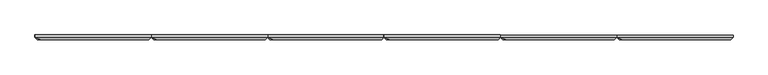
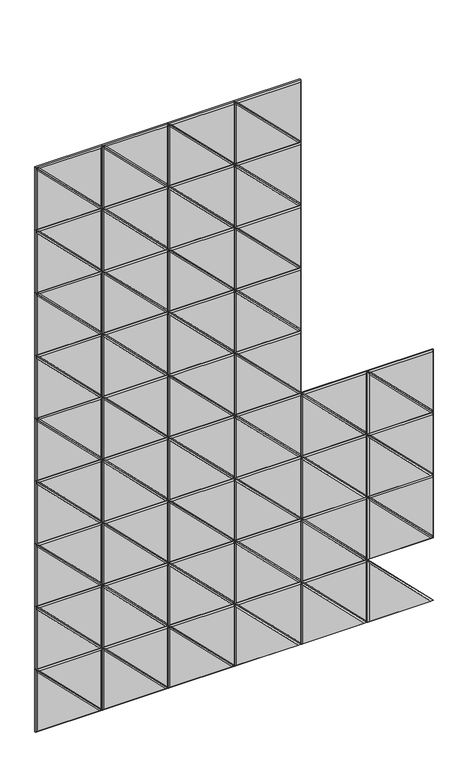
"""IFC4 building model written with IfcOpenShell, lengths in millimetres: proxy geometry, Wall_Akebia 3.3dm."""

from ifc_helpers import new_model, si_unit, origin, place, context, project, spatial, faceted_brep, source, transform, mapped, element, save


def generic_models_f0e3566a(model_context):
    return source(origin(), model_context, "Body", "Brep", [
        faceted_brep([(-0.0006831, 12.0, 2501.5492208), (-0.0006831, 12.0, 2799.9992208), (298.4493169, 12.0, 2501.5492208), (-0.0006831, 6.0, 2501.5492208), (-0.0006831, 6.0, 2799.9992208), (298.4493169, 6.0, 2501.5492208), (283.9640355, 0.0, 2507.5492208), (5.9993169, 0.0, 2785.5139395), (5.9993169, 0.0, 2507.5492208)], [[[0, 1, 2]], [[3, 4, 1, 0]], [[4, 5, 2, 1]], [[5, 3, 0, 2]], [[6, 7, 8]], [[3, 8, 7, 4]], [[4, 7, 6, 5]], [[5, 6, 8, 3]]]),
        faceted_brep([(298.4493169, 12.0, 2799.9992208), (298.4493169, 12.0, 2501.5492208), (-0.0006831, 12.0, 2799.9992208), (298.4493169, 6.0, 2799.9992208), (-0.0006831, 6.0, 2799.9992208), (298.4493169, 6.0, 2501.5492208), (292.4493169, 0.0, 2516.0345022), (292.4493169, 0.0, 2793.9992208), (14.4845982, 0.0, 2793.9992208)], [[[0, 1, 2]], [[3, 0, 2, 4]], [[4, 2, 1, 5]], [[5, 1, 0, 3]], [[6, 7, 8]], [[3, 4, 8, 7]], [[4, 5, 6, 8]], [[5, 3, 7, 6]]]),
        faceted_brep([(298.4486337, 12.0, 2501.5484417), (298.4486337, 12.0, 2799.9984417), (596.8986337, 12.0, 2501.5484417), (298.4486337, 6.0, 2501.5484417), (298.4486337, 6.0, 2799.9984417), (596.8986337, 6.0, 2501.5484417), (582.4133524, 0.0, 2507.5484417), (304.4486337, 0.0, 2785.5131603), (304.4486337, 0.0, 2507.5484417)], [[[0, 1, 2]], [[3, 4, 1, 0]], [[4, 5, 2, 1]], [[5, 3, 0, 2]], [[6, 7, 8]], [[3, 8, 7, 4]], [[4, 7, 6, 5]], [[5, 6, 8, 3]]]),
        faceted_brep([(596.8986337, 12.0, 2799.9984417), (596.8986337, 12.0, 2501.5484417), (298.4486337, 12.0, 2799.9984417), (596.8986337, 6.0, 2799.9984417), (298.4486337, 6.0, 2799.9984417), (596.8986337, 6.0, 2501.5484417), (590.8986337, 0.0, 2516.0337231), (590.8986337, 0.0, 2793.9984417), (312.9339151, 0.0, 2793.9984417)], [[[0, 1, 2]], [[3, 0, 2, 4]], [[4, 2, 1, 5]], [[5, 1, 0, 3]], [[6, 7, 8]], [[3, 4, 8, 7]], [[4, 5, 6, 8]], [[5, 3, 7, 6]]]),
        faceted_brep([(596.8979506, 12.0, 2501.5492208), (596.8979506, 12.0, 2799.9992208), (895.3479506, 12.0, 2501.5492208), (596.8979506, 6.0, 2501.5492208), (596.8979506, 6.0, 2799.9992208), (895.3479506, 6.0, 2501.5492208), (880.8626692, 0.0, 2507.5492208), (602.8979506, 0.0, 2785.5139395), (602.8979506, 0.0, 2507.5492208)], [[[0, 1, 2]], [[3, 4, 1, 0]], [[4, 5, 2, 1]], [[5, 3, 0, 2]], [[6, 7, 8]], [[3, 8, 7, 4]], [[4, 7, 6, 5]], [[5, 6, 8, 3]]]),
        faceted_brep([(895.3479506, 12.0, 2799.9992208), (895.3479506, 12.0, 2501.5492208), (596.8979506, 12.0, 2799.9992208), (895.3479506, 6.0, 2799.9992208), (596.8979506, 6.0, 2799.9992208), (895.3479506, 6.0, 2501.5492208), (889.3479506, 0.0, 2516.0345022), (889.3479506, 0.0, 2793.9992208), (611.383232, 0.0, 2793.9992208)], [[[0, 1, 2]], [[3, 0, 2, 4]], [[4, 2, 1, 5]], [[5, 1, 0, 3]], [[6, 7, 8]], [[3, 4, 8, 7]], [[4, 5, 6, 8]], [[5, 3, 7, 6]]]),
        faceted_brep([(895.3472675, 12.0, 2501.5484417), (895.3472675, 12.0, 2799.9984417), (1193.7972675, 12.0, 2501.5484417), (895.3472675, 6.0, 2501.5484417), (895.3472675, 6.0, 2799.9984417), (1193.7972675, 6.0, 2501.5484417), (1179.3119861, 0.0, 2507.5484417), (901.3472675, 0.0, 2785.5131603), (901.3472675, 0.0, 2507.5484417)], [[[0, 1, 2]], [[3, 4, 1, 0]], [[4, 5, 2, 1]], [[5, 3, 0, 2]], [[6, 7, 8]], [[3, 8, 7, 4]], [[4, 7, 6, 5]], [[5, 6, 8, 3]]]),
        faceted_brep([(1193.7972675, 12.0, 2799.9984417), (1193.7972675, 12.0, 2501.5484417), (895.3472675, 12.0, 2799.9984417), (1193.7972675, 6.0, 2799.9984417), (895.3472675, 6.0, 2799.9984417), (1193.7972675, 6.0, 2501.5484417), (1187.7972675, 0.0, 2516.0337231), (1187.7972675, 0.0, 2793.9984417), (909.8325488, 0.0, 2793.9984417)], [[[0, 1, 2]], [[3, 0, 2, 4]], [[4, 2, 1, 5]], [[5, 1, 0, 3]], [[6, 7, 8]], [[3, 4, 8, 7]], [[4, 5, 6, 8]], [[5, 3, 7, 6]]]),
        faceted_brep([(-0.0006831, 12.0, 2203.0992208), (-0.0006831, 12.0, 2501.5492208), (298.4493169, 12.0, 2203.0992208), (-0.0006831, 6.0, 2203.0992208), (-0.0006831, 6.0, 2501.5492208), (298.4493169, 6.0, 2203.0992208), (283.9640355, 0.0, 2209.0992208), (5.9993169, 0.0, 2487.0639395), (5.9993169, 0.0, 2209.0992208)], [[[0, 1, 2]], [[3, 4, 1, 0]], [[4, 5, 2, 1]], [[5, 3, 0, 2]], [[6, 7, 8]], [[3, 8, 7, 4]], [[4, 7, 6, 5]], [[5, 6, 8, 3]]]),
        faceted_brep([(298.4493169, 12.0, 2501.5492208), (298.4493169, 12.0, 2203.0992208), (-0.0006831, 12.0, 2501.5492208), (298.4493169, 6.0, 2501.5492208), (-0.0006831, 6.0, 2501.5492208), (298.4493169, 6.0, 2203.0992208), (292.4493169, 0.0, 2217.5845022), (292.4493169, 0.0, 2495.5492208), (14.4845982, 0.0, 2495.5492208)], [[[0, 1, 2]], [[3, 0, 2, 4]], [[4, 2, 1, 5]], [[5, 1, 0, 3]], [[6, 7, 8]], [[3, 4, 8, 7]], [[4, 5, 6, 8]], [[5, 3, 7, 6]]]),
        faceted_brep([(298.4486337, 12.0, 2203.0984417), (298.4486337, 12.0, 2501.5484417), (596.8986337, 12.0, 2203.0984417), (298.4486337, 6.0, 2203.0984417), (298.4486337, 6.0, 2501.5484417), (596.8986337, 6.0, 2203.0984417), (582.4133524, 0.0, 2209.0984417), (304.4486337, 0.0, 2487.0631603), (304.4486337, 0.0, 2209.0984417)], [[[0, 1, 2]], [[3, 4, 1, 0]], [[4, 5, 2, 1]], [[5, 3, 0, 2]], [[6, 7, 8]], [[3, 8, 7, 4]], [[4, 7, 6, 5]], [[5, 6, 8, 3]]]),
        faceted_brep([(596.8986337, 12.0, 2501.5484417), (596.8986337, 12.0, 2203.0984417), (298.4486337, 12.0, 2501.5484417), (596.8986337, 6.0, 2501.5484417), (298.4486337, 6.0, 2501.5484417), (596.8986337, 6.0, 2203.0984417), (590.8986337, 0.0, 2217.5837231), (590.8986337, 0.0, 2495.5484417), (312.9339151, 0.0, 2495.5484417)], [[[0, 1, 2]], [[3, 0, 2, 4]], [[4, 2, 1, 5]], [[5, 1, 0, 3]], [[6, 7, 8]], [[3, 4, 8, 7]], [[4, 5, 6, 8]], [[5, 3, 7, 6]]]),
        faceted_brep([(596.8979506, 12.0, 2203.0992208), (596.8979506, 12.0, 2501.5492208), (895.3479506, 12.0, 2203.0992208), (596.8979506, 6.0, 2203.0992208), (596.8979506, 6.0, 2501.5492208), (895.3479506, 6.0, 2203.0992208), (880.8626692, 0.0, 2209.0992208), (602.8979506, 0.0, 2487.0639395), (602.8979506, 0.0, 2209.0992208)], [[[0, 1, 2]], [[3, 4, 1, 0]], [[4, 5, 2, 1]], [[5, 3, 0, 2]], [[6, 7, 8]], [[3, 8, 7, 4]], [[4, 7, 6, 5]], [[5, 6, 8, 3]]]),
        faceted_brep([(895.3479506, 12.0, 2501.5492208), (895.3479506, 12.0, 2203.0992208), (596.8979506, 12.0, 2501.5492208), (895.3479506, 6.0, 2501.5492208), (596.8979506, 6.0, 2501.5492208), (895.3479506, 6.0, 2203.0992208), (889.3479506, 0.0, 2217.5845022), (889.3479506, 0.0, 2495.5492208), (611.383232, 0.0, 2495.5492208)], [[[0, 1, 2]], [[3, 0, 2, 4]], [[4, 2, 1, 5]], [[5, 1, 0, 3]], [[6, 7, 8]], [[3, 4, 8, 7]], [[4, 5, 6, 8]], [[5, 3, 7, 6]]]),
        faceted_brep([(895.3472675, 12.0, 2203.0984417), (895.3472675, 12.0, 2501.5484417), (1193.7972675, 12.0, 2203.0984417), (895.3472675, 6.0, 2203.0984417), (895.3472675, 6.0, 2501.5484417), (1193.7972675, 6.0, 2203.0984417), (1179.3119861, 0.0, 2209.0984417), (901.3472675, 0.0, 2487.0631603), (901.3472675, 0.0, 2209.0984417)], [[[0, 1, 2]], [[3, 4, 1, 0]], [[4, 5, 2, 1]], [[5, 3, 0, 2]], [[6, 7, 8]], [[3, 8, 7, 4]], [[4, 7, 6, 5]], [[5, 6, 8, 3]]]),
        faceted_brep([(1193.7972675, 12.0, 2501.5484417), (1193.7972675, 12.0, 2203.0984417), (895.3472675, 12.0, 2501.5484417), (1193.7972675, 6.0, 2501.5484417), (895.3472675, 6.0, 2501.5484417), (1193.7972675, 6.0, 2203.0984417), (1187.7972675, 0.0, 2217.5837231), (1187.7972675, 0.0, 2495.5484417), (909.8325488, 0.0, 2495.5484417)], [[[0, 1, 2]], [[3, 0, 2, 4]], [[4, 2, 1, 5]], [[5, 1, 0, 3]], [[6, 7, 8]], [[3, 4, 8, 7]], [[4, 5, 6, 8]], [[5, 3, 7, 6]]]),
        faceted_brep([(-0.0006831, 12.0, 1904.6492208), (-0.0006831, 12.0, 2203.0992208), (298.4493169, 12.0, 1904.6492208), (-0.0006831, 6.0, 1904.6492208), (-0.0006831, 6.0, 2203.0992208), (298.4493169, 6.0, 1904.6492208), (283.9640355, 0.0, 1910.6492208), (5.9993169, 0.0, 2188.6139395), (5.9993169, 0.0, 1910.6492208)], [[[0, 1, 2]], [[3, 4, 1, 0]], [[4, 5, 2, 1]], [[5, 3, 0, 2]], [[6, 7, 8]], [[3, 8, 7, 4]], [[4, 7, 6, 5]], [[5, 6, 8, 3]]]),
        faceted_brep([(298.4493169, 12.0, 2203.0992208), (298.4493169, 12.0, 1904.6492208), (-0.0006831, 12.0, 2203.0992208), (298.4493169, 6.0, 2203.0992208), (-0.0006831, 6.0, 2203.0992208), (298.4493169, 6.0, 1904.6492208), (292.4493169, 0.0, 1919.1345022), (292.4493169, 0.0, 2197.0992208), (14.4845982, 0.0, 2197.0992208)], [[[0, 1, 2]], [[3, 0, 2, 4]], [[4, 2, 1, 5]], [[5, 1, 0, 3]], [[6, 7, 8]], [[3, 4, 8, 7]], [[4, 5, 6, 8]], [[5, 3, 7, 6]]]),
        faceted_brep([(298.4486337, 12.0, 1904.6484417), (298.4486337, 12.0, 2203.0984417), (596.8986337, 12.0, 1904.6484417), (298.4486337, 6.0, 1904.6484417), (298.4486337, 6.0, 2203.0984417), (596.8986337, 6.0, 1904.6484417), (582.4133524, 0.0, 1910.6484417), (304.4486337, 0.0, 2188.6131603), (304.4486337, 0.0, 1910.6484417)], [[[0, 1, 2]], [[3, 4, 1, 0]], [[4, 5, 2, 1]], [[5, 3, 0, 2]], [[6, 7, 8]], [[3, 8, 7, 4]], [[4, 7, 6, 5]], [[5, 6, 8, 3]]]),
        faceted_brep([(596.8986337, 12.0, 2203.0984417), (596.8986337, 12.0, 1904.6484417), (298.4486337, 12.0, 2203.0984417), (596.8986337, 6.0, 2203.0984417), (298.4486337, 6.0, 2203.0984417), (596.8986337, 6.0, 1904.6484417), (590.8986337, 0.0, 1919.1337231), (590.8986337, 0.0, 2197.0984417), (312.9339151, 0.0, 2197.0984417)], [[[0, 1, 2]], [[3, 0, 2, 4]], [[4, 2, 1, 5]], [[5, 1, 0, 3]], [[6, 7, 8]], [[3, 4, 8, 7]], [[4, 5, 6, 8]], [[5, 3, 7, 6]]]),
        faceted_brep([(596.8979506, 12.0, 1904.6492208), (596.8979506, 12.0, 2203.0992208), (895.3479506, 12.0, 1904.6492208), (596.8979506, 6.0, 1904.6492208), (596.8979506, 6.0, 2203.0992208), (895.3479506, 6.0, 1904.6492208), (880.8626692, 0.0, 1910.6492208), (602.8979506, 0.0, 2188.6139395), (602.8979506, 0.0, 1910.6492208)], [[[0, 1, 2]], [[3, 4, 1, 0]], [[4, 5, 2, 1]], [[5, 3, 0, 2]], [[6, 7, 8]], [[3, 8, 7, 4]], [[4, 7, 6, 5]], [[5, 6, 8, 3]]]),
        faceted_brep([(895.3479506, 12.0, 2203.0992208), (895.3479506, 12.0, 1904.6492208), (596.8979506, 12.0, 2203.0992208), (895.3479506, 6.0, 2203.0992208), (596.8979506, 6.0, 2203.0992208), (895.3479506, 6.0, 1904.6492208), (889.3479506, 0.0, 1919.1345022), (889.3479506, 0.0, 2197.0992208), (611.383232, 0.0, 2197.0992208)], [[[0, 1, 2]], [[3, 0, 2, 4]], [[4, 2, 1, 5]], [[5, 1, 0, 3]], [[6, 7, 8]], [[3, 4, 8, 7]], [[4, 5, 6, 8]], [[5, 3, 7, 6]]]),
        faceted_brep([(895.3472675, 12.0, 1904.6484417), (895.3472675, 12.0, 2203.0984417), (1193.7972675, 12.0, 1904.6484417), (895.3472675, 6.0, 1904.6484417), (895.3472675, 6.0, 2203.0984417), (1193.7972675, 6.0, 1904.6484417), (1179.3119861, 0.0, 1910.6484417), (901.3472675, 0.0, 2188.6131603), (901.3472675, 0.0, 1910.6484417)], [[[0, 1, 2]], [[3, 4, 1, 0]], [[4, 5, 2, 1]], [[5, 3, 0, 2]], [[6, 7, 8]], [[3, 8, 7, 4]], [[4, 7, 6, 5]], [[5, 6, 8, 3]]]),
        faceted_brep([(1193.7972675, 12.0, 2203.0984417), (1193.7972675, 12.0, 1904.6484417), (895.3472675, 12.0, 2203.0984417), (1193.7972675, 6.0, 2203.0984417), (895.3472675, 6.0, 2203.0984417), (1193.7972675, 6.0, 1904.6484417), (1187.7972675, 0.0, 1919.1337231), (1187.7972675, 0.0, 2197.0984417), (909.8325488, 0.0, 2197.0984417)], [[[0, 1, 2]], [[3, 0, 2, 4]], [[4, 2, 1, 5]], [[5, 1, 0, 3]], [[6, 7, 8]], [[3, 4, 8, 7]], [[4, 5, 6, 8]], [[5, 3, 7, 6]]]),
        faceted_brep([(-0.0006831, 12.0, 1606.1992208), (-0.0006831, 12.0, 1904.6492208), (298.4493169, 12.0, 1606.1992208), (-0.0006831, 6.0, 1606.1992208), (-0.0006831, 6.0, 1904.6492208), (298.4493169, 6.0, 1606.1992208), (283.9640355, 0.0, 1612.1992208), (5.9993169, 0.0, 1890.1639395), (5.9993169, 0.0, 1612.1992208)], [[[0, 1, 2]], [[3, 4, 1, 0]], [[4, 5, 2, 1]], [[5, 3, 0, 2]], [[6, 7, 8]], [[3, 8, 7, 4]], [[4, 7, 6, 5]], [[5, 6, 8, 3]]]),
        faceted_brep([(298.4493169, 12.0, 1904.6492208), (298.4493169, 12.0, 1606.1992208), (-0.0006831, 12.0, 1904.6492208), (298.4493169, 6.0, 1904.6492208), (-0.0006831, 6.0, 1904.6492208), (298.4493169, 6.0, 1606.1992208), (292.4493169, 0.0, 1620.6845022), (292.4493169, 0.0, 1898.6492208), (14.4845982, 0.0, 1898.6492208)], [[[0, 1, 2]], [[3, 0, 2, 4]], [[4, 2, 1, 5]], [[5, 1, 0, 3]], [[6, 7, 8]], [[3, 4, 8, 7]], [[4, 5, 6, 8]], [[5, 3, 7, 6]]]),
        faceted_brep([(298.4486337, 12.0, 1606.1984417), (298.4486337, 12.0, 1904.6484417), (596.8986337, 12.0, 1606.1984417), (298.4486337, 6.0, 1606.1984417), (298.4486337, 6.0, 1904.6484417), (596.8986337, 6.0, 1606.1984417), (582.4133524, 0.0, 1612.1984417), (304.4486337, 0.0, 1890.1631603), (304.4486337, 0.0, 1612.1984417)], [[[0, 1, 2]], [[3, 4, 1, 0]], [[4, 5, 2, 1]], [[5, 3, 0, 2]], [[6, 7, 8]], [[3, 8, 7, 4]], [[4, 7, 6, 5]], [[5, 6, 8, 3]]]),
        faceted_brep([(596.8986337, 12.0, 1904.6484417), (596.8986337, 12.0, 1606.1984417), (298.4486337, 12.0, 1904.6484417), (596.8986337, 6.0, 1904.6484417), (298.4486337, 6.0, 1904.6484417), (596.8986337, 6.0, 1606.1984417), (590.8986337, 0.0, 1620.6837231), (590.8986337, 0.0, 1898.6484417), (312.9339151, 0.0, 1898.6484417)], [[[0, 1, 2]], [[3, 0, 2, 4]], [[4, 2, 1, 5]], [[5, 1, 0, 3]], [[6, 7, 8]], [[3, 4, 8, 7]], [[4, 5, 6, 8]], [[5, 3, 7, 6]]]),
        faceted_brep([(596.8979506, 12.0, 1606.1992208), (596.8979506, 12.0, 1904.6492208), (895.3479506, 12.0, 1606.1992208), (596.8979506, 6.0, 1606.1992208), (596.8979506, 6.0, 1904.6492208), (895.3479506, 6.0, 1606.1992208), (880.8626692, 0.0, 1612.1992208), (602.8979506, 0.0, 1890.1639395), (602.8979506, 0.0, 1612.1992208)], [[[0, 1, 2]], [[3, 4, 1, 0]], [[4, 5, 2, 1]], [[5, 3, 0, 2]], [[6, 7, 8]], [[3, 8, 7, 4]], [[4, 7, 6, 5]], [[5, 6, 8, 3]]]),
        faceted_brep([(895.3479506, 12.0, 1904.6492208), (895.3479506, 12.0, 1606.1992208), (596.8979506, 12.0, 1904.6492208), (895.3479506, 6.0, 1904.6492208), (596.8979506, 6.0, 1904.6492208), (895.3479506, 6.0, 1606.1992208), (889.3479506, 0.0, 1620.6845022), (889.3479506, 0.0, 1898.6492208), (611.383232, 0.0, 1898.6492208)], [[[0, 1, 2]], [[3, 0, 2, 4]], [[4, 2, 1, 5]], [[5, 1, 0, 3]], [[6, 7, 8]], [[3, 4, 8, 7]], [[4, 5, 6, 8]], [[5, 3, 7, 6]]]),
        faceted_brep([(895.3472675, 12.0, 1606.1984417), (895.3472675, 12.0, 1904.6484417), (1193.7972675, 12.0, 1606.1984417), (895.3472675, 6.0, 1606.1984417), (895.3472675, 6.0, 1904.6484417), (1193.7972675, 6.0, 1606.1984417), (1179.3119861, 0.0, 1612.1984417), (901.3472675, 0.0, 1890.1631603), (901.3472675, 0.0, 1612.1984417)], [[[0, 1, 2]], [[3, 4, 1, 0]], [[4, 5, 2, 1]], [[5, 3, 0, 2]], [[6, 7, 8]], [[3, 8, 7, 4]], [[4, 7, 6, 5]], [[5, 6, 8, 3]]]),
        faceted_brep([(1193.7972675, 12.0, 1904.6484417), (1193.7972675, 12.0, 1606.1984417), (895.3472675, 12.0, 1904.6484417), (1193.7972675, 6.0, 1904.6484417), (895.3472675, 6.0, 1904.6484417), (1193.7972675, 6.0, 1606.1984417), (1187.7972675, 0.0, 1620.6837231), (1187.7972675, 0.0, 1898.6484417), (909.8325488, 0.0, 1898.6484417)], [[[0, 1, 2]], [[3, 0, 2, 4]], [[4, 2, 1, 5]], [[5, 1, 0, 3]], [[6, 7, 8]], [[3, 4, 8, 7]], [[4, 5, 6, 8]], [[5, 3, 7, 6]]]),
        faceted_brep([(-0.0006831, 12.0, 1307.7492208), (-0.0006831, 12.0, 1606.1992208), (298.4493169, 12.0, 1307.7492208), (-0.0006831, 6.0, 1307.7492208), (-0.0006831, 6.0, 1606.1992208), (298.4493169, 6.0, 1307.7492208), (283.9640355, 0.0, 1313.7492208), (5.9993169, 0.0, 1591.7139395), (5.9993169, 0.0, 1313.7492208)], [[[0, 1, 2]], [[3, 4, 1, 0]], [[4, 5, 2, 1]], [[5, 3, 0, 2]], [[6, 7, 8]], [[3, 8, 7, 4]], [[4, 7, 6, 5]], [[5, 6, 8, 3]]]),
        faceted_brep([(298.4493169, 12.0, 1606.1992208), (298.4493169, 12.0, 1307.7492208), (-0.0006831, 12.0, 1606.1992208), (298.4493169, 6.0, 1606.1992208), (-0.0006831, 6.0, 1606.1992208), (298.4493169, 6.0, 1307.7492208), (292.4493169, 0.0, 1322.2345022), (292.4493169, 0.0, 1600.1992208), (14.4845982, 0.0, 1600.1992208)], [[[0, 1, 2]], [[3, 0, 2, 4]], [[4, 2, 1, 5]], [[5, 1, 0, 3]], [[6, 7, 8]], [[3, 4, 8, 7]], [[4, 5, 6, 8]], [[5, 3, 7, 6]]]),
        faceted_brep([(298.4486337, 12.0, 1307.7484417), (298.4486337, 12.0, 1606.1984417), (596.8986337, 12.0, 1307.7484417), (298.4486337, 6.0, 1307.7484417), (298.4486337, 6.0, 1606.1984417), (596.8986337, 6.0, 1307.7484417), (582.4133524, 0.0, 1313.7484417), (304.4486337, 0.0, 1591.7131603), (304.4486337, 0.0, 1313.7484417)], [[[0, 1, 2]], [[3, 4, 1, 0]], [[4, 5, 2, 1]], [[5, 3, 0, 2]], [[6, 7, 8]], [[3, 8, 7, 4]], [[4, 7, 6, 5]], [[5, 6, 8, 3]]]),
        faceted_brep([(596.8986337, 12.0, 1606.1984417), (596.8986337, 12.0, 1307.7484417), (298.4486337, 12.0, 1606.1984417), (596.8986337, 6.0, 1606.1984417), (298.4486337, 6.0, 1606.1984417), (596.8986337, 6.0, 1307.7484417), (590.8986337, 0.0, 1322.2337231), (590.8986337, 0.0, 1600.1984417), (312.9339151, 0.0, 1600.1984417)], [[[0, 1, 2]], [[3, 0, 2, 4]], [[4, 2, 1, 5]], [[5, 1, 0, 3]], [[6, 7, 8]], [[3, 4, 8, 7]], [[4, 5, 6, 8]], [[5, 3, 7, 6]]]),
        faceted_brep([(596.8979506, 12.0, 1307.7492208), (596.8979506, 12.0, 1606.1992208), (895.3479506, 12.0, 1307.7492208), (596.8979506, 6.0, 1307.7492208), (596.8979506, 6.0, 1606.1992208), (895.3479506, 6.0, 1307.7492208), (880.8626692, 0.0, 1313.7492208), (602.8979506, 0.0, 1591.7139395), (602.8979506, 0.0, 1313.7492208)], [[[0, 1, 2]], [[3, 4, 1, 0]], [[4, 5, 2, 1]], [[5, 3, 0, 2]], [[6, 7, 8]], [[3, 8, 7, 4]], [[4, 7, 6, 5]], [[5, 6, 8, 3]]]),
        faceted_brep([(895.3479506, 12.0, 1606.1992208), (895.3479506, 12.0, 1307.7492208), (596.8979506, 12.0, 1606.1992208), (895.3479506, 6.0, 1606.1992208), (596.8979506, 6.0, 1606.1992208), (895.3479506, 6.0, 1307.7492208), (889.3479506, 0.0, 1322.2345022), (889.3479506, 0.0, 1600.1992208), (611.383232, 0.0, 1600.1992208)], [[[0, 1, 2]], [[3, 0, 2, 4]], [[4, 2, 1, 5]], [[5, 1, 0, 3]], [[6, 7, 8]], [[3, 4, 8, 7]], [[4, 5, 6, 8]], [[5, 3, 7, 6]]]),
        faceted_brep([(895.3472675, 12.0, 1307.7484417), (895.3472675, 12.0, 1606.1984417), (1193.7972675, 12.0, 1307.7484417), (895.3472675, 6.0, 1307.7484417), (895.3472675, 6.0, 1606.1984417), (1193.7972675, 6.0, 1307.7484417), (1179.3119861, 0.0, 1313.7484417), (901.3472675, 0.0, 1591.7131603), (901.3472675, 0.0, 1313.7484417)], [[[0, 1, 2]], [[3, 4, 1, 0]], [[4, 5, 2, 1]], [[5, 3, 0, 2]], [[6, 7, 8]], [[3, 8, 7, 4]], [[4, 7, 6, 5]], [[5, 6, 8, 3]]]),
        faceted_brep([(1193.7972675, 12.0, 1606.1984417), (1193.7972675, 12.0, 1307.7484417), (895.3472675, 12.0, 1606.1984417), (1193.7972675, 6.0, 1606.1984417), (895.3472675, 6.0, 1606.1984417), (1193.7972675, 6.0, 1307.7484417), (1187.7972675, 0.0, 1322.2337231), (1187.7972675, 0.0, 1600.1984417), (909.8325488, 0.0, 1600.1984417)], [[[0, 1, 2]], [[3, 0, 2, 4]], [[4, 2, 1, 5]], [[5, 1, 0, 3]], [[6, 7, 8]], [[3, 4, 8, 7]], [[4, 5, 6, 8]], [[5, 3, 7, 6]]]),
        faceted_brep([(-0.0006831, 12.0, 1009.2992208), (-0.0006831, 12.0, 1307.7492208), (298.4493169, 12.0, 1009.2992208), (-0.0006831, 6.0, 1009.2992208), (-0.0006831, 6.0, 1307.7492208), (298.4493169, 6.0, 1009.2992208), (283.9640355, 0.0, 1015.2992208), (5.9993169, 0.0, 1293.2639395), (5.9993169, 0.0, 1015.2992208)], [[[0, 1, 2]], [[3, 4, 1, 0]], [[4, 5, 2, 1]], [[5, 3, 0, 2]], [[6, 7, 8]], [[3, 8, 7, 4]], [[4, 7, 6, 5]], [[5, 6, 8, 3]]]),
        faceted_brep([(298.4493169, 12.0, 1307.7492208), (298.4493169, 12.0, 1009.2992208), (-0.0006831, 12.0, 1307.7492208), (298.4493169, 6.0, 1307.7492208), (-0.0006831, 6.0, 1307.7492208), (298.4493169, 6.0, 1009.2992208), (292.4493169, 0.0, 1023.7845022), (292.4493169, 0.0, 1301.7492208), (14.4845982, 0.0, 1301.7492208)], [[[0, 1, 2]], [[3, 0, 2, 4]], [[4, 2, 1, 5]], [[5, 1, 0, 3]], [[6, 7, 8]], [[3, 4, 8, 7]], [[4, 5, 6, 8]], [[5, 3, 7, 6]]]),
        faceted_brep([(298.4486337, 12.0, 1009.2984417), (298.4486337, 12.0, 1307.7484417), (596.8986337, 12.0, 1009.2984417), (298.4486337, 6.0, 1009.2984417), (298.4486337, 6.0, 1307.7484417), (596.8986337, 6.0, 1009.2984417), (582.4133524, 0.0, 1015.2984417), (304.4486337, 0.0, 1293.2631603), (304.4486337, 0.0, 1015.2984417)], [[[0, 1, 2]], [[3, 4, 1, 0]], [[4, 5, 2, 1]], [[5, 3, 0, 2]], [[6, 7, 8]], [[3, 8, 7, 4]], [[4, 7, 6, 5]], [[5, 6, 8, 3]]]),
        faceted_brep([(596.8986337, 12.0, 1307.7484417), (596.8986337, 12.0, 1009.2984417), (298.4486337, 12.0, 1307.7484417), (596.8986337, 6.0, 1307.7484417), (298.4486337, 6.0, 1307.7484417), (596.8986337, 6.0, 1009.2984417), (590.8986337, 0.0, 1023.7837231), (590.8986337, 0.0, 1301.7484417), (312.9339151, 0.0, 1301.7484417)], [[[0, 1, 2]], [[3, 0, 2, 4]], [[4, 2, 1, 5]], [[5, 1, 0, 3]], [[6, 7, 8]], [[3, 4, 8, 7]], [[4, 5, 6, 8]], [[5, 3, 7, 6]]]),
        faceted_brep([(596.8979506, 12.0, 1009.2992208), (596.8979506, 12.0, 1307.7492208), (895.3479506, 12.0, 1009.2992208), (596.8979506, 6.0, 1009.2992208), (596.8979506, 6.0, 1307.7492208), (895.3479506, 6.0, 1009.2992208), (880.8626692, 0.0, 1015.2992208), (602.8979506, 0.0, 1293.2639395), (602.8979506, 0.0, 1015.2992208)], [[[0, 1, 2]], [[3, 4, 1, 0]], [[4, 5, 2, 1]], [[5, 3, 0, 2]], [[6, 7, 8]], [[3, 8, 7, 4]], [[4, 7, 6, 5]], [[5, 6, 8, 3]]]),
        faceted_brep([(895.3479506, 12.0, 1307.7492208), (895.3479506, 12.0, 1009.2992208), (596.8979506, 12.0, 1307.7492208), (895.3479506, 6.0, 1307.7492208), (596.8979506, 6.0, 1307.7492208), (895.3479506, 6.0, 1009.2992208), (889.3479506, 0.0, 1023.7845022), (889.3479506, 0.0, 1301.7492208), (611.383232, 0.0, 1301.7492208)], [[[0, 1, 2]], [[3, 0, 2, 4]], [[4, 2, 1, 5]], [[5, 1, 0, 3]], [[6, 7, 8]], [[3, 4, 8, 7]], [[4, 5, 6, 8]], [[5, 3, 7, 6]]]),
        faceted_brep([(895.3472675, 12.0, 1009.2984417), (895.3472675, 12.0, 1307.7484417), (1193.7972675, 12.0, 1009.2984417), (895.3472675, 6.0, 1009.2984417), (895.3472675, 6.0, 1307.7484417), (1193.7972675, 6.0, 1009.2984417), (1179.3119861, 0.0, 1015.2984417), (901.3472675, 0.0, 1293.2631603), (901.3472675, 0.0, 1015.2984417)], [[[0, 1, 2]], [[3, 4, 1, 0]], [[4, 5, 2, 1]], [[5, 3, 0, 2]], [[6, 7, 8]], [[3, 8, 7, 4]], [[4, 7, 6, 5]], [[5, 6, 8, 3]]]),
        faceted_brep([(1193.7972675, 12.0, 1307.7484417), (1193.7972675, 12.0, 1009.2984417), (895.3472675, 12.0, 1307.7484417), (1193.7972675, 6.0, 1307.7484417), (895.3472675, 6.0, 1307.7484417), (1193.7972675, 6.0, 1009.2984417), (1187.7972675, 0.0, 1023.7837231), (1187.7972675, 0.0, 1301.7484417), (909.8325488, 0.0, 1301.7484417)], [[[0, 1, 2]], [[3, 0, 2, 4]], [[4, 2, 1, 5]], [[5, 1, 0, 3]], [[6, 7, 8]], [[3, 4, 8, 7]], [[4, 5, 6, 8]], [[5, 3, 7, 6]]]),
        faceted_brep([(1193.7965843, 12.0, 1009.2976625), (1193.7965843, 12.0, 1307.7476625), (1492.2465843, 12.0, 1009.2976625), (1193.7965843, 6.0, 1009.2976625), (1193.7965843, 6.0, 1307.7476625), (1492.2465843, 6.0, 1009.2976625), (1477.761303, 0.0, 1015.2976625), (1199.7965843, 0.0, 1293.2623811), (1199.7965843, 0.0, 1015.2976625)], [[[0, 1, 2]], [[3, 4, 1, 0]], [[4, 5, 2, 1]], [[5, 3, 0, 2]], [[6, 7, 8]], [[3, 8, 7, 4]], [[4, 7, 6, 5]], [[5, 6, 8, 3]]]),
        faceted_brep([(1492.2465843, 12.0, 1307.7476625), (1492.2465843, 12.0, 1009.2976625), (1193.7965843, 12.0, 1307.7476625), (1492.2465843, 6.0, 1307.7476625), (1193.7965843, 6.0, 1307.7476625), (1492.2465843, 6.0, 1009.2976625), (1486.2465843, 0.0, 1023.7829439), (1486.2465843, 0.0, 1301.7476625), (1208.2818657, 0.0, 1301.7476625)], [[[0, 1, 2]], [[3, 0, 2, 4]], [[4, 2, 1, 5]], [[5, 1, 0, 3]], [[6, 7, 8]], [[3, 4, 8, 7]], [[4, 5, 6, 8]], [[5, 3, 7, 6]]]),
        faceted_brep([(1492.2465843, 12.0, 1009.2976625), (1492.2465843, 12.0, 1307.7476625), (1790.6965843, 12.0, 1009.2976625), (1492.2465843, 6.0, 1009.2976625), (1492.2465843, 6.0, 1307.7476625), (1790.6965843, 6.0, 1009.2976625), (1776.211303, 0.0, 1015.2976625), (1498.2465843, 0.0, 1293.2623811), (1498.2465843, 0.0, 1015.2976625)], [[[0, 1, 2]], [[3, 4, 1, 0]], [[4, 5, 2, 1]], [[5, 3, 0, 2]], [[6, 7, 8]], [[3, 8, 7, 4]], [[4, 7, 6, 5]], [[5, 6, 8, 3]]]),
        faceted_brep([(1790.6965843, 12.0, 1307.7476625), (1790.6965843, 12.0, 1009.2976625), (1492.2465843, 12.0, 1307.7476625), (1790.6965843, 6.0, 1307.7476625), (1492.2465843, 6.0, 1307.7476625), (1790.6965843, 6.0, 1009.2976625), (1784.6965843, 0.0, 1023.7829439), (1784.6965843, 0.0, 1301.7476625), (1506.7318657, 0.0, 1301.7476625)], [[[0, 1, 2]], [[3, 0, 2, 4]], [[4, 2, 1, 5]], [[5, 1, 0, 3]], [[6, 7, 8]], [[3, 4, 8, 7]], [[4, 5, 6, 8]], [[5, 3, 7, 6]]]),
        faceted_brep([(-0.0006831, 12.0, 710.8492208), (-0.0006831, 12.0, 1009.2992208), (298.4493169, 12.0, 710.8492208), (-0.0006831, 6.0, 710.8492208), (-0.0006831, 6.0, 1009.2992208), (298.4493169, 6.0, 710.8492208), (283.9640355, 0.0, 716.8492208), (5.9993169, 0.0, 994.8139395), (5.9993169, 0.0, 716.8492208)], [[[0, 1, 2]], [[3, 4, 1, 0]], [[4, 5, 2, 1]], [[5, 3, 0, 2]], [[6, 7, 8]], [[3, 8, 7, 4]], [[4, 7, 6, 5]], [[5, 6, 8, 3]]]),
        faceted_brep([(298.4493169, 12.0, 1009.2992208), (298.4493169, 12.0, 710.8492208), (-0.0006831, 12.0, 1009.2992208), (298.4493169, 6.0, 1009.2992208), (-0.0006831, 6.0, 1009.2992208), (298.4493169, 6.0, 710.8492208), (292.4493169, 0.0, 725.3345022), (292.4493169, 0.0, 1003.2992208), (14.4845982, 0.0, 1003.2992208)], [[[0, 1, 2]], [[3, 0, 2, 4]], [[4, 2, 1, 5]], [[5, 1, 0, 3]], [[6, 7, 8]], [[3, 4, 8, 7]], [[4, 5, 6, 8]], [[5, 3, 7, 6]]]),
        faceted_brep([(298.4486337, 12.0, 710.8484417), (298.4486337, 12.0, 1009.2984417), (596.8986337, 12.0, 710.8484417), (298.4486337, 6.0, 710.8484417), (298.4486337, 6.0, 1009.2984417), (596.8986337, 6.0, 710.8484417), (582.4133524, 0.0, 716.8484417), (304.4486337, 0.0, 994.8131603), (304.4486337, 0.0, 716.8484417)], [[[0, 1, 2]], [[3, 4, 1, 0]], [[4, 5, 2, 1]], [[5, 3, 0, 2]], [[6, 7, 8]], [[3, 8, 7, 4]], [[4, 7, 6, 5]], [[5, 6, 8, 3]]]),
        faceted_brep([(596.8986337, 12.0, 1009.2984417), (596.8986337, 12.0, 710.8484417), (298.4486337, 12.0, 1009.2984417), (596.8986337, 6.0, 1009.2984417), (298.4486337, 6.0, 1009.2984417), (596.8986337, 6.0, 710.8484417), (590.8986337, 0.0, 725.3337231), (590.8986337, 0.0, 1003.2984417), (312.9339151, 0.0, 1003.2984417)], [[[0, 1, 2]], [[3, 0, 2, 4]], [[4, 2, 1, 5]], [[5, 1, 0, 3]], [[6, 7, 8]], [[3, 4, 8, 7]], [[4, 5, 6, 8]], [[5, 3, 7, 6]]]),
        faceted_brep([(596.8979506, 12.0, 710.8492208), (596.8979506, 12.0, 1009.2992208), (895.3479506, 12.0, 710.8492208), (596.8979506, 6.0, 710.8492208), (596.8979506, 6.0, 1009.2992208), (895.3479506, 6.0, 710.8492208), (880.8626692, 0.0, 716.8492208), (602.8979506, 0.0, 994.8139395), (602.8979506, 0.0, 716.8492208)], [[[0, 1, 2]], [[3, 4, 1, 0]], [[4, 5, 2, 1]], [[5, 3, 0, 2]], [[6, 7, 8]], [[3, 8, 7, 4]], [[4, 7, 6, 5]], [[5, 6, 8, 3]]]),
        faceted_brep([(895.3479506, 12.0, 1009.2992208), (895.3479506, 12.0, 710.8492208), (596.8979506, 12.0, 1009.2992208), (895.3479506, 6.0, 1009.2992208), (596.8979506, 6.0, 1009.2992208), (895.3479506, 6.0, 710.8492208), (889.3479506, 0.0, 725.3345022), (889.3479506, 0.0, 1003.2992208), (611.383232, 0.0, 1003.2992208)], [[[0, 1, 2]], [[3, 0, 2, 4]], [[4, 2, 1, 5]], [[5, 1, 0, 3]], [[6, 7, 8]], [[3, 4, 8, 7]], [[4, 5, 6, 8]], [[5, 3, 7, 6]]]),
        faceted_brep([(895.3472675, 12.0, 710.8484417), (895.3472675, 12.0, 1009.2984417), (1193.7972675, 12.0, 710.8484417), (895.3472675, 6.0, 710.8484417), (895.3472675, 6.0, 1009.2984417), (1193.7972675, 6.0, 710.8484417), (1179.3119861, 0.0, 716.8484417), (901.3472675, 0.0, 994.8131603), (901.3472675, 0.0, 716.8484417)], [[[0, 1, 2]], [[3, 4, 1, 0]], [[4, 5, 2, 1]], [[5, 3, 0, 2]], [[6, 7, 8]], [[3, 8, 7, 4]], [[4, 7, 6, 5]], [[5, 6, 8, 3]]]),
        faceted_brep([(1193.7972675, 12.0, 1009.2984417), (1193.7972675, 12.0, 710.8484417), (895.3472675, 12.0, 1009.2984417), (1193.7972675, 6.0, 1009.2984417), (895.3472675, 6.0, 1009.2984417), (1193.7972675, 6.0, 710.8484417), (1187.7972675, 0.0, 725.3337231), (1187.7972675, 0.0, 1003.2984417), (909.8325488, 0.0, 1003.2984417)], [[[0, 1, 2]], [[3, 0, 2, 4]], [[4, 2, 1, 5]], [[5, 1, 0, 3]], [[6, 7, 8]], [[3, 4, 8, 7]], [[4, 5, 6, 8]], [[5, 3, 7, 6]]]),
        faceted_brep([(1193.7965843, 12.0, 710.8476625), (1193.7965843, 12.0, 1009.2976625), (1492.2465843, 12.0, 710.8476625), (1193.7965843, 6.0, 710.8476625), (1193.7965843, 6.0, 1009.2976625), (1492.2465843, 6.0, 710.8476625), (1477.761303, 0.0, 716.8476625), (1199.7965843, 0.0, 994.8123811), (1199.7965843, 0.0, 716.8476625)], [[[0, 1, 2]], [[3, 4, 1, 0]], [[4, 5, 2, 1]], [[5, 3, 0, 2]], [[6, 7, 8]], [[3, 8, 7, 4]], [[4, 7, 6, 5]], [[5, 6, 8, 3]]]),
        faceted_brep([(1492.2465843, 12.0, 1009.2976625), (1492.2465843, 12.0, 710.8476625), (1193.7965843, 12.0, 1009.2976625), (1492.2465843, 6.0, 1009.2976625), (1193.7965843, 6.0, 1009.2976625), (1492.2465843, 6.0, 710.8476625), (1486.2465843, 0.0, 725.3329439), (1486.2465843, 0.0, 1003.2976625), (1208.2818657, 0.0, 1003.2976625)], [[[0, 1, 2]], [[3, 0, 2, 4]], [[4, 2, 1, 5]], [[5, 1, 0, 3]], [[6, 7, 8]], [[3, 4, 8, 7]], [[4, 5, 6, 8]], [[5, 3, 7, 6]]]),
        faceted_brep([(1492.2465843, 12.0, 710.8476625), (1492.2465843, 12.0, 1009.2976625), (1790.6965843, 12.0, 710.8476625), (1492.2465843, 6.0, 710.8476625), (1492.2465843, 6.0, 1009.2976625), (1790.6965843, 6.0, 710.8476625), (1776.211303, 0.0, 716.8476625), (1498.2465843, 0.0, 994.8123811), (1498.2465843, 0.0, 716.8476625)], [[[0, 1, 2]], [[3, 4, 1, 0]], [[4, 5, 2, 1]], [[5, 3, 0, 2]], [[6, 7, 8]], [[3, 8, 7, 4]], [[4, 7, 6, 5]], [[5, 6, 8, 3]]]),
        faceted_brep([(1790.6965843, 12.0, 1009.2976625), (1790.6965843, 12.0, 710.8476625), (1492.2465843, 12.0, 1009.2976625), (1790.6965843, 6.0, 1009.2976625), (1492.2465843, 6.0, 1009.2976625), (1790.6965843, 6.0, 710.8476625), (1784.6965843, 0.0, 725.3329439), (1784.6965843, 0.0, 1003.2976625), (1506.7318657, 0.0, 1003.2976625)], [[[0, 1, 2]], [[3, 0, 2, 4]], [[4, 2, 1, 5]], [[5, 1, 0, 3]], [[6, 7, 8]], [[3, 4, 8, 7]], [[4, 5, 6, 8]], [[5, 3, 7, 6]]]),
        faceted_brep([(-0.0006831, 12.0, 412.3992208), (-0.0006831, 12.0, 710.8492208), (298.4493169, 12.0, 412.3992208), (-0.0006831, 6.0, 412.3992208), (-0.0006831, 6.0, 710.8492208), (298.4493169, 6.0, 412.3992208), (283.9640355, 0.0, 418.3992208), (5.9993169, 0.0, 696.3639395), (5.9993169, 0.0, 418.3992208)], [[[0, 1, 2]], [[3, 4, 1, 0]], [[4, 5, 2, 1]], [[5, 3, 0, 2]], [[6, 7, 8]], [[3, 8, 7, 4]], [[4, 7, 6, 5]], [[5, 6, 8, 3]]]),
        faceted_brep([(298.4493169, 12.0, 710.8492208), (298.4493169, 12.0, 412.3992208), (-0.0006831, 12.0, 710.8492208), (298.4493169, 6.0, 710.8492208), (-0.0006831, 6.0, 710.8492208), (298.4493169, 6.0, 412.3992208), (292.4493169, 0.0, 426.8845022), (292.4493169, 0.0, 704.8492208), (14.4845982, 0.0, 704.8492208)], [[[0, 1, 2]], [[3, 0, 2, 4]], [[4, 2, 1, 5]], [[5, 1, 0, 3]], [[6, 7, 8]], [[3, 4, 8, 7]], [[4, 5, 6, 8]], [[5, 3, 7, 6]]]),
        faceted_brep([(298.4486337, 12.0, 412.3984417), (298.4486337, 12.0, 710.8484417), (596.8986337, 12.0, 412.3984417), (298.4486337, 6.0, 412.3984417), (298.4486337, 6.0, 710.8484417), (596.8986337, 6.0, 412.3984417), (582.4133524, 0.0, 418.3984417), (304.4486337, 0.0, 696.3631603), (304.4486337, 0.0, 418.3984417)], [[[0, 1, 2]], [[3, 4, 1, 0]], [[4, 5, 2, 1]], [[5, 3, 0, 2]], [[6, 7, 8]], [[3, 8, 7, 4]], [[4, 7, 6, 5]], [[5, 6, 8, 3]]]),
        faceted_brep([(596.8986337, 12.0, 710.8484417), (596.8986337, 12.0, 412.3984417), (298.4486337, 12.0, 710.8484417), (596.8986337, 6.0, 710.8484417), (298.4486337, 6.0, 710.8484417), (596.8986337, 6.0, 412.3984417), (590.8986337, 0.0, 426.8837231), (590.8986337, 0.0, 704.8484417), (312.9339151, 0.0, 704.8484417)], [[[0, 1, 2]], [[3, 0, 2, 4]], [[4, 2, 1, 5]], [[5, 1, 0, 3]], [[6, 7, 8]], [[3, 4, 8, 7]], [[4, 5, 6, 8]], [[5, 3, 7, 6]]]),
        faceted_brep([(596.8979506, 12.0, 412.3992208), (596.8979506, 12.0, 710.8492208), (895.3479506, 12.0, 412.3992208), (596.8979506, 6.0, 412.3992208), (596.8979506, 6.0, 710.8492208), (895.3479506, 6.0, 412.3992208), (880.8626692, 0.0, 418.3992208), (602.8979506, 0.0, 696.3639395), (602.8979506, 0.0, 418.3992208)], [[[0, 1, 2]], [[3, 4, 1, 0]], [[4, 5, 2, 1]], [[5, 3, 0, 2]], [[6, 7, 8]], [[3, 8, 7, 4]], [[4, 7, 6, 5]], [[5, 6, 8, 3]]]),
        faceted_brep([(895.3479506, 12.0, 710.8492208), (895.3479506, 12.0, 412.3992208), (596.8979506, 12.0, 710.8492208), (895.3479506, 6.0, 710.8492208), (596.8979506, 6.0, 710.8492208), (895.3479506, 6.0, 412.3992208), (889.3479506, 0.0, 426.8845022), (889.3479506, 0.0, 704.8492208), (611.383232, 0.0, 704.8492208)], [[[0, 1, 2]], [[3, 0, 2, 4]], [[4, 2, 1, 5]], [[5, 1, 0, 3]], [[6, 7, 8]], [[3, 4, 8, 7]], [[4, 5, 6, 8]], [[5, 3, 7, 6]]]),
        faceted_brep([(895.3472675, 12.0, 412.3984417), (895.3472675, 12.0, 710.8484417), (1193.7972675, 12.0, 412.3984417), (895.3472675, 6.0, 412.3984417), (895.3472675, 6.0, 710.8484417), (1193.7972675, 6.0, 412.3984417), (1179.3119861, 0.0, 418.3984417), (901.3472675, 0.0, 696.3631603), (901.3472675, 0.0, 418.3984417)], [[[0, 1, 2]], [[3, 4, 1, 0]], [[4, 5, 2, 1]], [[5, 3, 0, 2]], [[6, 7, 8]], [[3, 8, 7, 4]], [[4, 7, 6, 5]], [[5, 6, 8, 3]]]),
        faceted_brep([(1193.7972675, 12.0, 710.8484417), (1193.7972675, 12.0, 412.3984417), (895.3472675, 12.0, 710.8484417), (1193.7972675, 6.0, 710.8484417), (895.3472675, 6.0, 710.8484417), (1193.7972675, 6.0, 412.3984417), (1187.7972675, 0.0, 426.8837231), (1187.7972675, 0.0, 704.8484417), (909.8325488, 0.0, 704.8484417)], [[[0, 1, 2]], [[3, 0, 2, 4]], [[4, 2, 1, 5]], [[5, 1, 0, 3]], [[6, 7, 8]], [[3, 4, 8, 7]], [[4, 5, 6, 8]], [[5, 3, 7, 6]]]),
        faceted_brep([(1193.7965843, 12.0, 412.3976625), (1193.7965843, 12.0, 710.8476625), (1492.2465843, 12.0, 412.3976625), (1193.7965843, 6.0, 412.3976625), (1193.7965843, 6.0, 710.8476625), (1492.2465843, 6.0, 412.3976625), (1477.761303, 0.0, 418.3976625), (1199.7965843, 0.0, 696.3623811), (1199.7965843, 0.0, 418.3976625)], [[[0, 1, 2]], [[3, 4, 1, 0]], [[4, 5, 2, 1]], [[5, 3, 0, 2]], [[6, 7, 8]], [[3, 8, 7, 4]], [[4, 7, 6, 5]], [[5, 6, 8, 3]]]),
        faceted_brep([(1492.2465843, 12.0, 710.8476625), (1492.2465843, 12.0, 412.3976625), (1193.7965843, 12.0, 710.8476625), (1492.2465843, 6.0, 710.8476625), (1193.7965843, 6.0, 710.8476625), (1492.2465843, 6.0, 412.3976625), (1486.2465843, 0.0, 426.8829439), (1486.2465843, 0.0, 704.8476625), (1208.2818657, 0.0, 704.8476625)], [[[0, 1, 2]], [[3, 0, 2, 4]], [[4, 2, 1, 5]], [[5, 1, 0, 3]], [[6, 7, 8]], [[3, 4, 8, 7]], [[4, 5, 6, 8]], [[5, 3, 7, 6]]]),
        faceted_brep([(1492.2465843, 12.0, 412.3976625), (1492.2465843, 12.0, 710.8476625), (1790.6965843, 12.0, 412.3976625), (1492.2465843, 6.0, 412.3976625), (1492.2465843, 6.0, 710.8476625), (1790.6965843, 6.0, 412.3976625), (1776.211303, 0.0, 418.3976625), (1498.2465843, 0.0, 696.3623811), (1498.2465843, 0.0, 418.3976625)], [[[0, 1, 2]], [[3, 4, 1, 0]], [[4, 5, 2, 1]], [[5, 3, 0, 2]], [[6, 7, 8]], [[3, 8, 7, 4]], [[4, 7, 6, 5]], [[5, 6, 8, 3]]]),
        faceted_brep([(1790.6965843, 12.0, 710.8476625), (1790.6965843, 12.0, 412.3976625), (1492.2465843, 12.0, 710.8476625), (1790.6965843, 6.0, 710.8476625), (1492.2465843, 6.0, 710.8476625), (1790.6965843, 6.0, 412.3976625), (1784.6965843, 0.0, 426.8829439), (1784.6965843, 0.0, 704.8476625), (1506.7318657, 0.0, 704.8476625)], [[[0, 1, 2]], [[3, 0, 2, 4]], [[4, 2, 1, 5]], [[5, 1, 0, 3]], [[6, 7, 8]], [[3, 4, 8, 7]], [[4, 5, 6, 8]], [[5, 3, 7, 6]]]),
        faceted_brep([(-0.0006831, 12.0, 113.9492208), (-0.0006831, 12.0, 412.3992208), (298.4493169, 12.0, 113.9492208), (-0.0006831, 6.0, 113.9492208), (-0.0006831, 6.0, 412.3992208), (298.4493169, 6.0, 113.9492208), (283.9640355, 0.0, 119.9492208), (5.9993169, 0.0, 397.9139395), (5.9993169, 0.0, 119.9492208)], [[[0, 1, 2]], [[3, 4, 1, 0]], [[4, 5, 2, 1]], [[5, 3, 0, 2]], [[6, 7, 8]], [[3, 8, 7, 4]], [[4, 7, 6, 5]], [[5, 6, 8, 3]]]),
        faceted_brep([(298.4493169, 12.0, 412.3992208), (298.4493169, 12.0, 113.9492208), (-0.0006831, 12.0, 412.3992208), (298.4493169, 6.0, 412.3992208), (-0.0006831, 6.0, 412.3992208), (298.4493169, 6.0, 113.9492208), (292.4493169, 0.0, 128.4345022), (292.4493169, 0.0, 406.3992208), (14.4845982, 0.0, 406.3992208)], [[[0, 1, 2]], [[3, 0, 2, 4]], [[4, 2, 1, 5]], [[5, 1, 0, 3]], [[6, 7, 8]], [[3, 4, 8, 7]], [[4, 5, 6, 8]], [[5, 3, 7, 6]]]),
        faceted_brep([(298.4486337, 12.0, 113.9484417), (298.4486337, 12.0, 412.3984417), (596.8986337, 12.0, 113.9484417), (298.4486337, 6.0, 113.9484417), (298.4486337, 6.0, 412.3984417), (596.8986337, 6.0, 113.9484417), (582.4133524, 0.0, 119.9484417), (304.4486337, 0.0, 397.9131603), (304.4486337, 0.0, 119.9484417)], [[[0, 1, 2]], [[3, 4, 1, 0]], [[4, 5, 2, 1]], [[5, 3, 0, 2]], [[6, 7, 8]], [[3, 8, 7, 4]], [[4, 7, 6, 5]], [[5, 6, 8, 3]]]),
        faceted_brep([(596.8986337, 12.0, 412.3984417), (596.8986337, 12.0, 113.9484417), (298.4486337, 12.0, 412.3984417), (596.8986337, 6.0, 412.3984417), (298.4486337, 6.0, 412.3984417), (596.8986337, 6.0, 113.9484417), (590.8986337, 0.0, 128.4337231), (590.8986337, 0.0, 406.3984417), (312.9339151, 0.0, 406.3984417)], [[[0, 1, 2]], [[3, 0, 2, 4]], [[4, 2, 1, 5]], [[5, 1, 0, 3]], [[6, 7, 8]], [[3, 4, 8, 7]], [[4, 5, 6, 8]], [[5, 3, 7, 6]]]),
        faceted_brep([(596.8979506, 12.0, 113.9492208), (596.8979506, 12.0, 412.3992208), (895.3479506, 12.0, 113.9492208), (596.8979506, 6.0, 113.9492208), (596.8979506, 6.0, 412.3992208), (895.3479506, 6.0, 113.9492208), (880.8626692, 0.0, 119.9492208), (602.8979506, 0.0, 397.9139395), (602.8979506, 0.0, 119.9492208)], [[[0, 1, 2]], [[3, 4, 1, 0]], [[4, 5, 2, 1]], [[5, 3, 0, 2]], [[6, 7, 8]], [[3, 8, 7, 4]], [[4, 7, 6, 5]], [[5, 6, 8, 3]]]),
        faceted_brep([(895.3479506, 12.0, 412.3992208), (895.3479506, 12.0, 113.9492208), (596.8979506, 12.0, 412.3992208), (895.3479506, 6.0, 412.3992208), (596.8979506, 6.0, 412.3992208), (895.3479506, 6.0, 113.9492208), (889.3479506, 0.0, 128.4345022), (889.3479506, 0.0, 406.3992208), (611.383232, 0.0, 406.3992208)], [[[0, 1, 2]], [[3, 0, 2, 4]], [[4, 2, 1, 5]], [[5, 1, 0, 3]], [[6, 7, 8]], [[3, 4, 8, 7]], [[4, 5, 6, 8]], [[5, 3, 7, 6]]]),
        faceted_brep([(895.3472675, 12.0, 113.9484417), (895.3472675, 12.0, 412.3984417), (1193.7972675, 12.0, 113.9484417), (895.3472675, 6.0, 113.9484417), (895.3472675, 6.0, 412.3984417), (1193.7972675, 6.0, 113.9484417), (1179.3119861, 0.0, 119.9484417), (901.3472675, 0.0, 397.9131603), (901.3472675, 0.0, 119.9484417)], [[[0, 1, 2]], [[3, 4, 1, 0]], [[4, 5, 2, 1]], [[5, 3, 0, 2]], [[6, 7, 8]], [[3, 8, 7, 4]], [[4, 7, 6, 5]], [[5, 6, 8, 3]]]),
        faceted_brep([(1193.7972675, 12.0, 412.3984417), (1193.7972675, 12.0, 113.9484417), (895.3472675, 12.0, 412.3984417), (1193.7972675, 6.0, 412.3984417), (895.3472675, 6.0, 412.3984417), (1193.7972675, 6.0, 113.9484417), (1187.7972675, 0.0, 128.4337231), (1187.7972675, 0.0, 406.3984417), (909.8325488, 0.0, 406.3984417)], [[[0, 1, 2]], [[3, 0, 2, 4]], [[4, 2, 1, 5]], [[5, 1, 0, 3]], [[6, 7, 8]], [[3, 4, 8, 7]], [[4, 5, 6, 8]], [[5, 3, 7, 6]]]),
        faceted_brep([(1193.7965843, 12.0, 113.9476625), (1193.7965843, 12.0, 412.3976625), (1492.2465843, 12.0, 113.9476625), (1193.7965843, 6.0, 113.9476625), (1193.7965843, 6.0, 412.3976625), (1492.2465843, 6.0, 113.9476625), (1477.761303, 0.0, 119.9476625), (1199.7965843, 0.0, 397.9123811), (1199.7965843, 0.0, 119.9476625)], [[[0, 1, 2]], [[3, 4, 1, 0]], [[4, 5, 2, 1]], [[5, 3, 0, 2]], [[6, 7, 8]], [[3, 8, 7, 4]], [[4, 7, 6, 5]], [[5, 6, 8, 3]]]),
        faceted_brep([(1492.2465843, 12.0, 412.3976625), (1492.2465843, 12.0, 113.9476625), (1193.7965843, 12.0, 412.3976625), (1492.2465843, 6.0, 412.3976625), (1193.7965843, 6.0, 412.3976625), (1492.2465843, 6.0, 113.9476625), (1486.2465843, 0.0, 128.4329439), (1486.2465843, 0.0, 406.3976625), (1208.2818657, 0.0, 406.3976625)], [[[0, 1, 2]], [[3, 0, 2, 4]], [[4, 2, 1, 5]], [[5, 1, 0, 3]], [[6, 7, 8]], [[3, 4, 8, 7]], [[4, 5, 6, 8]], [[5, 3, 7, 6]]]),
        faceted_brep([(1492.2465843, 12.0, 113.9476625), (1492.2465843, 12.0, 412.3976625), (1790.6965843, 12.0, 113.9476625), (1492.2465843, 6.0, 113.9476625), (1492.2465843, 6.0, 412.3976625), (1790.6965843, 6.0, 113.9476625), (1776.211303, 0.0, 119.9476625), (1498.2465843, 0.0, 397.9123811), (1498.2465843, 0.0, 119.9476625)], [[[0, 1, 2]], [[3, 4, 1, 0]], [[4, 5, 2, 1]], [[5, 3, 0, 2]], [[6, 7, 8]], [[3, 8, 7, 4]], [[4, 7, 6, 5]], [[5, 6, 8, 3]]]),
    ])


if __name__ == "__main__":
    model = new_model("IFC4")
    model_context = context("Model", 3, world=origin())
    ifc_project = project(units=[si_unit("LENGTHUNIT", "METRE", prefix="MILLI")], contexts=[model_context])
    site = spatial("IfcSite", under=ifc_project)
    building = spatial("IfcBuilding", under=site)
    placement = place(None, origin())
    generic_models_shape = generic_models_f0e3566a(model_context)
    element("IfcBuildingElementProxy", 1, Name="Wall_Akebia 3.3dm", ObjectType="Wall_Akebia 3.3dm", at=placement, inside=building, context=model_context, shape_type="MappedRepresentation", body=[
        mapped(generic_models_shape, transform((0.0, 0.0, 0.0), x_axis=(1.0, 0.0, 0.0), y_axis=(0.0, 1.0, 0.0), z_axis=(0.0, 0.0, 1.0))),
    ])
    save(model, "model.ifc")
